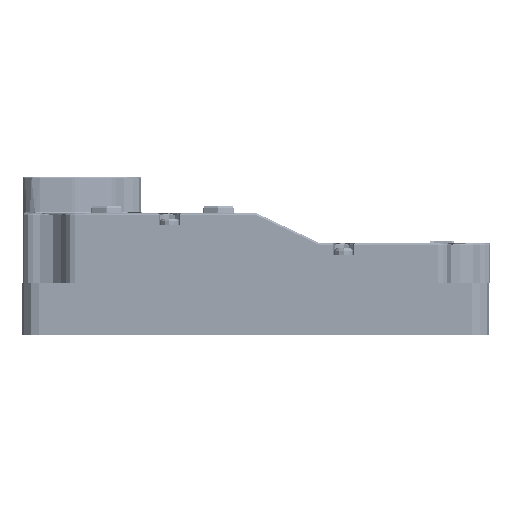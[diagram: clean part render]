
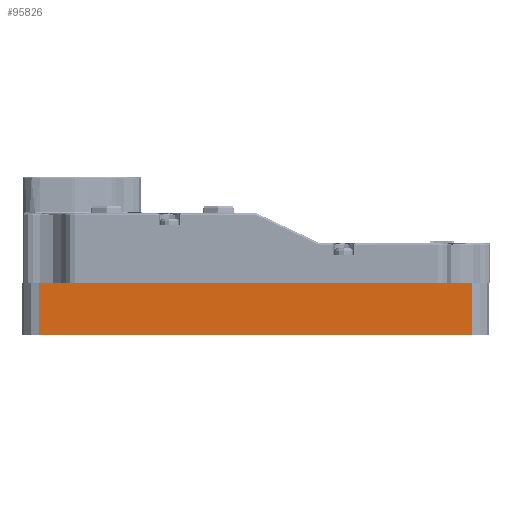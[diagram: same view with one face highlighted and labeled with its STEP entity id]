
A CAD part, left-side view. The second image highlights one B-rep face of the part: STEP entity #95826.
In plain terms, the highlighted planar face has unit normal (-1, 0, 0).
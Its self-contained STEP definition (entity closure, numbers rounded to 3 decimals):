
#1615 = VERTEX_POINT ( 'NONE', #341303 ) ;
#17997 = CARTESIAN_POINT ( 'NONE',  ( 0., 129., 0. ) ) ;
#27766 = EDGE_CURVE ( 'NONE', #181640, #378049, #314094, .T. ) ;
#31113 = CARTESIAN_POINT ( 'NONE',  ( 0., 129., 15. ) ) ;
#31957 = VERTEX_POINT ( 'NONE', #356263 ) ;
#35208 = EDGE_CURVE ( 'NONE', #378049, #31957, #235973, .T. ) ;
#41875 = VECTOR ( 'NONE', #256544, 1000. ) ;
#73963 = EDGE_LOOP ( 'NONE', ( #378104, #252419, #194032, #157858 ) ) ;
#95826 = ADVANCED_FACE ( 'NONE', ( #403696 ), #360697, .F. ) ;
#125415 = DIRECTION ( 'NONE',  ( 0., -1., 0. ) ) ;
#143951 = DIRECTION ( 'NONE',  ( 1., 0., 0. ) ) ;
#157097 = CARTESIAN_POINT ( 'NONE',  ( 0., 0., 0. ) ) ;
#157858 = ORIENTED_EDGE ( 'NONE', *, *, #398857, .F. ) ;
#168778 = VECTOR ( 'NONE', #307734, 1000. ) ;
#181640 = VERTEX_POINT ( 'NONE', #17997 ) ;
#190095 = DIRECTION ( 'NONE',  ( 0., 1., 0. ) ) ;
#194032 = ORIENTED_EDGE ( 'NONE', *, *, #27766, .F. ) ;
#202635 = CARTESIAN_POINT ( 'NONE',  ( 0., 129., 15. ) ) ;
#208718 = CARTESIAN_POINT ( 'NONE',  ( 0., 5., 15. ) ) ;
#225652 = VECTOR ( 'NONE', #125415, 1000. ) ;
#235973 = LINE ( 'NONE', #288954, #225652 ) ;
#252419 = ORIENTED_EDGE ( 'NONE', *, *, #35208, .F. ) ;
#256544 = DIRECTION ( 'NONE',  ( 0., 0., 1. ) ) ;
#278365 = VECTOR ( 'NONE', #190095, 1000. ) ;
#288954 = CARTESIAN_POINT ( 'NONE',  ( 0., 0., 15. ) ) ;
#307628 = AXIS2_PLACEMENT_3D ( 'NONE', #340545, #143951, #373598 ) ;
#307734 = DIRECTION ( 'NONE',  ( 0., 0., -1. ) ) ;
#314094 = LINE ( 'NONE', #31113, #41875 ) ;
#340545 = CARTESIAN_POINT ( 'NONE',  ( 0., 0., 15. ) ) ;
#341303 = CARTESIAN_POINT ( 'NONE',  ( 0., 5., 0. ) ) ;
#356263 = CARTESIAN_POINT ( 'NONE',  ( 0., 5., 15. ) ) ;
#360697 = PLANE ( 'NONE',  #307628 ) ;
#364234 = EDGE_CURVE ( 'NONE', #31957, #1615, #410312, .T. ) ;
#373598 = DIRECTION ( 'NONE',  ( 0., 0., -1. ) ) ;
#378049 = VERTEX_POINT ( 'NONE', #202635 ) ;
#378104 = ORIENTED_EDGE ( 'NONE', *, *, #364234, .F. ) ;
#386295 = LINE ( 'NONE', #157097, #278365 ) ;
#398857 = EDGE_CURVE ( 'NONE', #1615, #181640, #386295, .T. ) ;
#403696 = FACE_OUTER_BOUND ( 'NONE', #73963, .T. ) ;
#410312 = LINE ( 'NONE', #208718, #168778 ) ;
